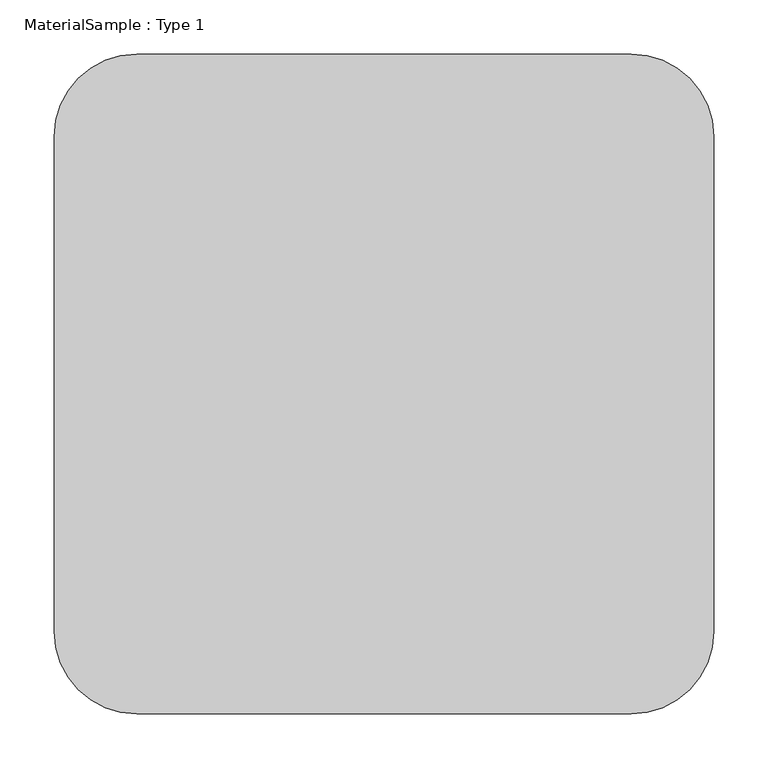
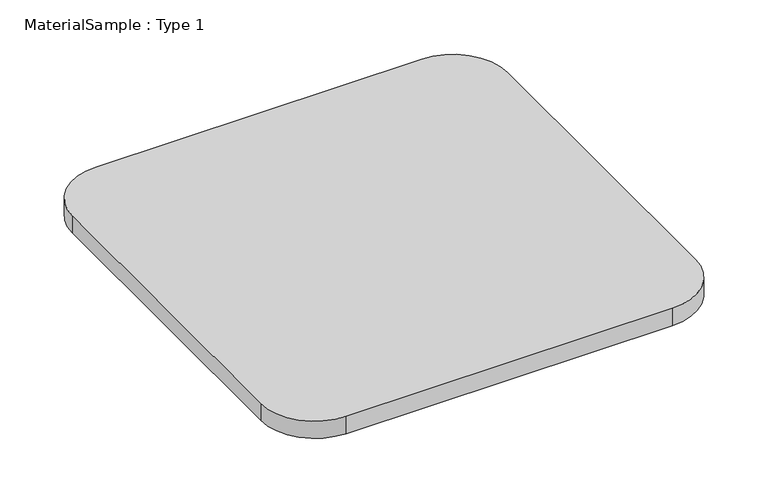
"""IFC4 building model written with IfcOpenShell, lengths in millimetres: proxy geometry, MaterialSample : Type 1."""

import ifcopenshell
import ifcopenshell.guid

model = None  # the IFC model being written
_history = None  # IfcOwnerHistory: only IFC2X3 demands one
_inside = {}  # id of a spatial element -> (the spatial element, [elements in it])
_under = {}  # id of a project, library or spatial element -> (it, [spatial elements below it])
_declared = {}  # id of a project -> (the project, [libraries it declares])
_typed = {}  # id of a type object -> (the type object, [elements of that type])
_made_of = {}  # id of a material, layer set ... -> (it, [elements and type objects made of it])


def new_model(schema):
    """Start an empty IFC model of exactly this schema.

    Asked for "IFC4X3", IfcOpenShell would pick the latest addendum, in which some entities
    have other attributes; the version numbers below select the first issue.
    IFC2X3 requires an IfcOwnerHistory on every rooted entity: one is made here for all.
    """
    global model, _history
    if schema == "IFC4X3":
        model = ifcopenshell.file(schema_version=(4, 3, 0, 0))
    else:
        model = ifcopenshell.file(schema=schema)
    _inside.clear()
    _under.clear()
    _declared.clear()
    _typed.clear()
    _made_of.clear()
    _history = None
    if model.schema == "IFC2X3":
        org = make("IfcOrganization", Name="unknown")
        user = make(
            "IfcPersonAndOrganization",
            ThePerson=make("IfcPerson", FamilyName="unknown"),
            TheOrganization=org,
        )
        app = make(
            "IfcApplication",
            ApplicationDeveloper=org,
            Version="unknown",
            ApplicationFullName="unknown",
            ApplicationIdentifier="unknown",
        )
        _history = make(
            "IfcOwnerHistory",
            OwningUser=user,
            OwningApplication=app,
            ChangeAction="ADDED",
            CreationDate=0,
        )
    return model


def make(cls, **values):
    """One entity of the class cls with the attributes given. An attribute that is None is left unset."""
    return model.create_entity(
        cls, **{name: value for name, value in values.items() if value is not None}
    )


def rooted(cls, **values):
    """An entity with a GlobalId (a new one), such as an element, a storey or a relation."""
    return make(cls, GlobalId=ifcopenshell.guid.new(), OwnerHistory=_history, **values)


def si_unit(unit_type, name, prefix=None):
    """IfcSIUnit, for example si_unit("LENGTHUNIT", "METRE", prefix="MILLI")."""
    return make("IfcSIUnit", UnitType=unit_type, Prefix=prefix, Name=name)


def assignment(units):
    """IfcUnitAssignment: the units of a project."""
    return None if units is None else make("IfcUnitAssignment", Units=units)


def point(xyz):
    """IfcCartesianPoint."""
    return None if xyz is None else make("IfcCartesianPoint", Coordinates=xyz)


def direction(xyz):
    """IfcDirection."""
    return None if xyz is None else make("IfcDirection", DirectionRatios=xyz)


def frame(location, z_axis=None, x_axis=None):
    """IfcAxis2Placement3D, a coordinate frame: its origin and axes. An axis left out is left unset."""
    return make(
        "IfcAxis2Placement3D",
        Location=point(location),
        Axis=direction(z_axis),
        RefDirection=direction(x_axis),
    )


def frame_2d(location, x_axis=None):
    """IfcAxis2Placement2D, a coordinate frame in the plane: its origin and x axis."""
    return make(
        "IfcAxis2Placement2D", Location=point(location), RefDirection=direction(x_axis)
    )


def origin():
    """The frame at (0, 0, 0) with its axes left unset."""
    return frame((0.0, 0.0, 0.0))


def origin_with_axes():
    """The frame at (0, 0, 0) with the z axis (0, 0, 1) and the x axis (1, 0, 0) written out."""
    return frame((0.0, 0.0, 0.0), z_axis=(0.0, 0.0, 1.0), x_axis=(1.0, 0.0, 0.0))


def place(relative_to, where):
    """IfcLocalPlacement: puts the frame where relative to a parent placement (None: the world)."""
    return make(
        "IfcLocalPlacement", PlacementRelTo=relative_to, RelativePlacement=where
    )


def context(
    kind, dimensions, precision=None, world=None, true_north=None, identifier=None
):
    """IfcGeometricRepresentationContext, for example the 3D "Model" context."""
    return make(
        "IfcGeometricRepresentationContext",
        ContextIdentifier=identifier,
        ContextType=kind,
        CoordinateSpaceDimension=dimensions,
        Precision=precision,
        WorldCoordinateSystem=world,
        TrueNorth=true_north,
    )


def project(units=None, contexts=None):
    """IfcProject with its units and contexts."""
    return rooted(
        "IfcProject",
        Name="project",
        RepresentationContexts=contexts,
        UnitsInContext=assignment(units),
    )


def spatial(cls, under=None, at=None, **own):
    """A site, building, storey or space (cls), placed at a placement, below another one or the project."""
    s = rooted(cls, ObjectPlacement=at, **own)
    if under is not None:
        _under.setdefault(under.id(), (under, []))[1].append(s)
    return s


def polyline(points):
    """IfcPolyline through the points."""
    return make("IfcPolyline", Points=[point(p) for p in points])


def circle_curve(where, radius):
    """IfcCircle in the frame where."""
    return make("IfcCircle", Position=where, Radius=radius)


def trimmed(basis, trim1, trim2, sense, master):
    """IfcTrimmedCurve: the piece of a basis curve between two trims."""
    return make(
        "IfcTrimmedCurve",
        BasisCurve=basis,
        Trim1=trim1,
        Trim2=trim2,
        SenseAgreement=sense,
        MasterRepresentation=master,
    )


def segment(curve, same_sense, transition):
    """IfcCompositeCurveSegment."""
    return make(
        "IfcCompositeCurveSegment",
        Transition=transition,
        SameSense=same_sense,
        ParentCurve=curve,
    )


def composite_curve(segments, self_intersect=None):
    """IfcCompositeCurve: segments joined end to end."""
    return make("IfcCompositeCurve", Segments=segments, SelfIntersect=self_intersect)


def outline(outer, holes=None, kind="AREA"):
    """IfcArbitraryClosedProfileDef: a profile drawn as a closed curve; with holes, ...WithVoids."""
    if holes is None:
        return make("IfcArbitraryClosedProfileDef", ProfileType=kind, OuterCurve=outer)
    return make(
        "IfcArbitraryProfileDefWithVoids",
        ProfileType=kind,
        OuterCurve=outer,
        InnerCurves=holes,
    )


def extrude(swept, where, along, depth):
    """IfcExtrudedAreaSolid: the profile swept, set in the frame where, extruded along a direction by depth."""
    return make(
        "IfcExtrudedAreaSolid",
        SweptArea=swept,
        Position=where,
        ExtrudedDirection=direction(along),
        Depth=depth,
    )


def shape(context_of_items, identifier, shape_type, items):
    """IfcShapeRepresentation: the items that make up one representation, for example the "Body"."""
    return make(
        "IfcShapeRepresentation",
        ContextOfItems=context_of_items,
        RepresentationIdentifier=identifier,
        RepresentationType=shape_type,
        Items=items,
    )


def source(mapping_origin, context_of_items, identifier, shape_type, items):
    """IfcRepresentationMap: a shape defined once, which mapped items show again and again."""
    return make(
        "IfcRepresentationMap",
        MappingOrigin=mapping_origin,
        MappedRepresentation=shape(context_of_items, identifier, shape_type, items),
    )


def transform(
    local_origin,
    x_axis=None,
    y_axis=None,
    z_axis=None,
    scale=None,
    scale2=None,
    scale3=None,
    uniform=True,
):
    """IfcCartesianTransformationOperator3D, or its non-uniform kind. x_axis, y_axis, z_axis: its Axis1, 2, 3."""
    if uniform:
        return make(
            "IfcCartesianTransformationOperator3D",
            Axis1=direction(x_axis),
            Axis2=direction(y_axis),
            LocalOrigin=point(local_origin),
            Scale=scale,
            Axis3=direction(z_axis),
        )
    return make(
        "IfcCartesianTransformationOperator3DnonUniform",
        Axis1=direction(x_axis),
        Axis2=direction(y_axis),
        LocalOrigin=point(local_origin),
        Scale=scale,
        Axis3=direction(z_axis),
        Scale2=scale2,
        Scale3=scale3,
    )


def mapped(mapping_source, mapping_target):
    """IfcMappedItem: shows the shape of a source again, moved by a transform."""
    return make(
        "IfcMappedItem", MappingSource=mapping_source, MappingTarget=mapping_target
    )


def made_of(thing, what):
    """Note that an element or type object is made of a material, layer set ...; save() writes the relation."""
    if what is not None:
        _made_of.setdefault(what.id(), (what, []))[1].append(thing)
    return thing


def element(
    cls,
    number,
    at=None,
    inside=None,
    cuts=None,
    type_object=None,
    material=None,
    context=None,
    identifier="Body",
    shape_type=None,
    held_by="IfcProductDefinitionShape",
    body=None,
    shapes=None,
    **own,
):
    """One element of the class cls, such as IfcWall. Its Tag is "e" and its number.

    at: its placement. inside: the storey or other place that contains it. cuts: it is an
    opening in that element (IfcRelVoidsElement). A single representation is given by context,
    identifier, shape_type and body (its items); several are given by shapes. held_by: the class
    of the entity that holds the representations. save() writes the other relations.
    """
    e = rooted(cls, Tag="e%d" % number, ObjectPlacement=at, **own)
    if body is not None:
        shapes = [shape(context, identifier, shape_type, body)]
    if shapes is not None:
        e.Representation = make(held_by, Representations=shapes)
    if inside is not None:
        _inside.setdefault(inside.id(), (inside, []))[1].append(e)
    if cuts is not None:
        rooted(
            "IfcRelVoidsElement", RelatingBuildingElement=cuts, RelatedOpeningElement=e
        )
    if type_object is not None:
        _typed.setdefault(type_object.id(), (type_object, []))[1].append(e)
    return made_of(e, material)


def aggregate(whole, parts):
    """IfcRelAggregates: a whole, such as a stair, and the parts it consists of."""
    return rooted("IfcRelAggregates", RelatingObject=whole, RelatedObjects=parts)


def save(model, path):
    """Write the relations noted so far, then the file.

    IfcRelAggregates (storeys below a building ...), IfcRelContainedInSpatialStructure (elements
    in a storey), IfcRelDefinesByType, IfcRelAssociatesMaterial and IfcRelDeclares: one each for
    every whole, place, type object, material and project.
    """
    for whole, parts in _under.values():
        aggregate(whole, parts)
    for where, things in _inside.values():
        rooted(
            "IfcRelContainedInSpatialStructure",
            RelatedElements=things,
            RelatingStructure=where,
        )
    for kind, things in _typed.values():
        rooted("IfcRelDefinesByType", RelatedObjects=things, RelatingType=kind)
    for what, things in _made_of.values():
        rooted("IfcRelAssociatesMaterial", RelatedObjects=things, RelatingMaterial=what)
    for by, libraries in _declared.values():
        rooted("IfcRelDeclares", RelatingContext=by, RelatedDefinitions=libraries)
    model.write(path)


def materialsample_type_1_9638d12c(model_context):
    return source(origin(), model_context, "Body", "SweptSolid", [
        extrude(outline(composite_curve([segment(polyline([(533.4, 0.0), (76.2, 0.0)]), True, "CONTINUOUS"), segment(trimmed(circle_curve(frame_2d((76.2, 76.2)), 76.2), [point((76.2, 0.0))], [point((0.0, 76.2))], False, "CARTESIAN"), True, "CONTINUOUS"), segment(polyline([(0.0, 76.2), (0.0, 533.4)]), True, "CONTINUOUS"), segment(trimmed(circle_curve(frame_2d((76.2, 533.4)), 76.2), [point((0.0, 533.4))], [point((76.2, 609.6))], False, "CARTESIAN"), True, "CONTINUOUS"), segment(polyline([(76.2, 609.6), (533.4, 609.6)]), True, "CONTINUOUS"), segment(trimmed(circle_curve(frame_2d((533.4, 533.4)), 76.2), [point((533.4, 609.6))], [point((609.6, 533.4))], False, "CARTESIAN"), True, "CONTINUOUS"), segment(polyline([(609.6, 533.4), (609.6, 76.2)]), True, "CONTINUOUS"), segment(trimmed(circle_curve(frame_2d((533.4, 76.2)), 76.2), [point((609.6, 76.2))], [point((533.4, 0.0))], False, "CARTESIAN"), True, "CONTINUOUS")], self_intersect=False)), origin_with_axes(), (0.0, 0.0, 1.0), 25.4),
    ])


if __name__ == "__main__":
    model = new_model("IFC4")
    model_context = context("Model", 3, world=origin())
    ifc_project = project(units=[si_unit("LENGTHUNIT", "METRE", prefix="MILLI")], contexts=[model_context])
    site = spatial("IfcSite", under=ifc_project)
    building = spatial("IfcBuilding", under=site)
    placement = place(None, origin())
    materialsample_type_1_shape = materialsample_type_1_9638d12c(model_context)
    element("IfcBuildingElementProxy", 1, Name="MaterialSample : Type 1", ObjectType="MaterialSample : Type 1", at=placement, inside=building, context=model_context, shape_type="MappedRepresentation", body=[
        mapped(materialsample_type_1_shape, transform((0.0, 0.0, 0.0), x_axis=(1.0, 0.0, 0.0), y_axis=(0.0, 1.0, 0.0), z_axis=(0.0, 0.0, 1.0))),
    ])
    save(model, "model.ifc")
